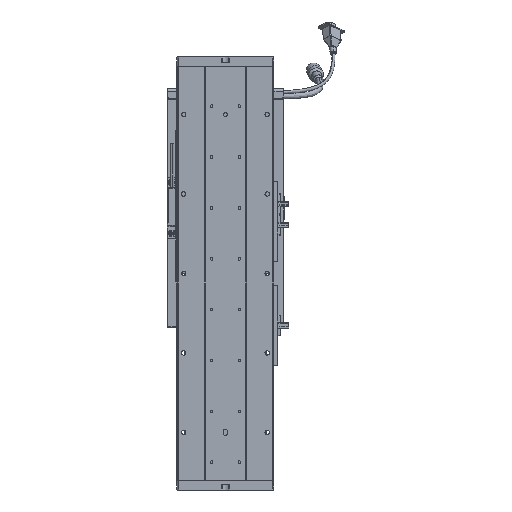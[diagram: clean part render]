
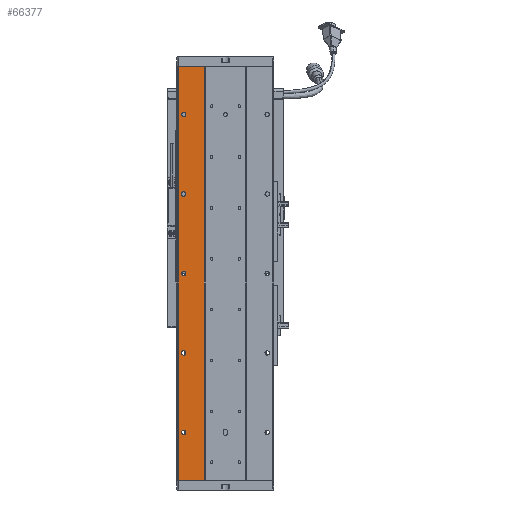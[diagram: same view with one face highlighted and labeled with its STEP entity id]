
A CAD part, front view. The second image highlights one B-rep face of the part: STEP entity #66377.
In plain terms, the highlighted planar face has unit normal (0, -1, 0).
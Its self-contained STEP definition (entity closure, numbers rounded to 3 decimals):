
#371 = AXIS2_PLACEMENT_3D ( 'NONE', #21642, #43368, #32875 ) ;
#647 = CIRCLE ( 'NONE', #56415, 2.75 ) ;
#777 = VECTOR ( 'NONE', #56408, 1000. ) ;
#1870 = CIRCLE ( 'NONE', #28255, 2.75 ) ;
#2249 = CARTESIAN_POINT ( 'NONE',  ( 95.718, 76.768, 521. ) ) ;
#2400 = EDGE_CURVE ( 'NONE', #39315, #15505, #65964, .T. ) ;
#2832 = DIRECTION ( 'NONE',  ( 0., 0., 1. ) ) ;
#3201 = EDGE_CURVE ( 'NONE', #43932, #38945, #65885, .T. ) ;
#3516 = FACE_BOUND ( 'NONE', #54152, .T. ) ;
#4074 = VECTOR ( 'NONE', #72143, 1000. ) ;
#4350 = FACE_BOUND ( 'NONE', #26008, .T. ) ;
#4689 = ORIENTED_EDGE ( 'NONE', *, *, #44095, .T. ) ;
#6122 = AXIS2_PLACEMENT_3D ( 'NONE', #52576, #69620, #36219 ) ;
#6358 = AXIS2_PLACEMENT_3D ( 'NONE', #41180, #18446, #30184 ) ;
#7632 = EDGE_CURVE ( 'NONE', #36573, #13439, #26385, .T. ) ;
#7899 = CARTESIAN_POINT ( 'NONE',  ( 84.971, 76.768, 0. ) ) ;
#9482 = ORIENTED_EDGE ( 'NONE', *, *, #22255, .F. ) ;
#9581 = ORIENTED_EDGE ( 'NONE', *, *, #2400, .F. ) ;
#10891 = VERTEX_POINT ( 'NONE', #37682 ) ;
#11020 = DIRECTION ( 'NONE',  ( 0., 1., 0. ) ) ;
#11096 = DIRECTION ( 'NONE',  ( 0., 0., 1. ) ) ;
#13439 = VERTEX_POINT ( 'NONE', #15595 ) ;
#13720 = EDGE_CURVE ( 'NONE', #68874, #31255, #37790, .T. ) ;
#13742 = PLANE ( 'NONE',  #53101 ) ;
#14238 = DIRECTION ( 'NONE',  ( 0., 0., 1. ) ) ;
#15305 = ORIENTED_EDGE ( 'NONE', *, *, #40513, .T. ) ;
#15505 = VERTEX_POINT ( 'NONE', #28987 ) ;
#15595 = CARTESIAN_POINT ( 'NONE',  ( 102.625, 76.768, 463.25 ) ) ;
#15846 = CARTESIAN_POINT ( 'NONE',  ( 0., 76.768, 0. ) ) ;
#15941 = VERTEX_POINT ( 'NONE', #2249 ) ;
#17335 = ORIENTED_EDGE ( 'NONE', *, *, #23644, .T. ) ;
#17418 = FACE_OUTER_BOUND ( 'NONE', #34646, .T. ) ;
#18420 = EDGE_LOOP ( 'NONE', ( #15305, #67484 ) ) ;
#18446 = DIRECTION ( 'NONE',  ( 0., 1., 0. ) ) ;
#18810 = EDGE_CURVE ( 'NONE', #53675, #10891, #53916, .T. ) ;
#20332 = EDGE_CURVE ( 'NONE', #49892, #23582, #52950, .T. ) ;
#20891 = EDGE_LOOP ( 'NONE', ( #64458, #49096 ) ) ;
#20926 = EDGE_CURVE ( 'NONE', #10891, #53675, #52033, .T. ) ;
#21642 = CARTESIAN_POINT ( 'NONE',  ( 102.625, 76.768, 460.5 ) ) ;
#22255 = EDGE_CURVE ( 'NONE', #15505, #15941, #24760, .T. ) ;
#23255 = ORIENTED_EDGE ( 'NONE', *, *, #18810, .T. ) ;
#23582 = VERTEX_POINT ( 'NONE', #43404 ) ;
#23644 = EDGE_CURVE ( 'NONE', #23582, #49892, #1870, .T. ) ;
#23915 = CARTESIAN_POINT ( 'NONE',  ( 102.625, 76.768, 63.25 ) ) ;
#24727 = DIRECTION ( 'NONE',  ( 0., 1., 0. ) ) ;
#24760 = LINE ( 'NONE', #70993, #62224 ) ;
#26008 = EDGE_LOOP ( 'NONE', ( #46991, #17335 ) ) ;
#26385 = CIRCLE ( 'NONE', #371, 2.75 ) ;
#28255 = AXIS2_PLACEMENT_3D ( 'NONE', #67241, #50193, #44594 ) ;
#28987 = CARTESIAN_POINT ( 'NONE',  ( 95.718, 76.768, 0. ) ) ;
#30184 = DIRECTION ( 'NONE',  ( 0., 0., 1. ) ) ;
#30539 = FACE_BOUND ( 'NONE', #20891, .T. ) ;
#30635 = CARTESIAN_POINT ( 'NONE',  ( 102.625, 76.768, 257.75 ) ) ;
#31144 = DIRECTION ( 'NONE',  ( 0., 1., 0. ) ) ;
#31247 = DIRECTION ( 'NONE',  ( 0., 1., 0. ) ) ;
#31255 = VERTEX_POINT ( 'NONE', #68599 ) ;
#31380 = LINE ( 'NONE', #40350, #777 ) ;
#31395 = CARTESIAN_POINT ( 'NONE',  ( 102.625, 76.768, 60.5 ) ) ;
#31608 = CARTESIAN_POINT ( 'NONE',  ( 128.625, 76.768, 521. ) ) ;
#31609 = CIRCLE ( 'NONE', #6122, 2.75 ) ;
#31902 = AXIS2_PLACEMENT_3D ( 'NONE', #47794, #31247, #36103 ) ;
#32875 = DIRECTION ( 'NONE',  ( 0., 0., 1. ) ) ;
#33203 = FACE_BOUND ( 'NONE', #18420, .T. ) ;
#34646 = EDGE_LOOP ( 'NONE', ( #9581, #48690, #66916, #9482 ) ) ;
#35329 = CARTESIAN_POINT ( 'NONE',  ( 128.625, 76.768, 521. ) ) ;
#35694 = LINE ( 'NONE', #35329, #65320 ) ;
#36103 = DIRECTION ( 'NONE',  ( 0., 0., 1. ) ) ;
#36219 = DIRECTION ( 'NONE',  ( 0., 0., 1. ) ) ;
#36573 = VERTEX_POINT ( 'NONE', #51702 ) ;
#37611 = DIRECTION ( 'NONE',  ( 0., 0., 1. ) ) ;
#37682 = CARTESIAN_POINT ( 'NONE',  ( 102.625, 76.768, 157.75 ) ) ;
#37790 = CIRCLE ( 'NONE', #6358, 2.75 ) ;
#37870 = ORIENTED_EDGE ( 'NONE', *, *, #13720, .T. ) ;
#38779 = EDGE_LOOP ( 'NONE', ( #4689, #37870 ) ) ;
#38945 = VERTEX_POINT ( 'NONE', #66311 ) ;
#39287 = FACE_BOUND ( 'NONE', #38779, .T. ) ;
#39309 = EDGE_CURVE ( 'NONE', #49157, #39315, #35694, .T. ) ;
#39315 = VERTEX_POINT ( 'NONE', #51665 ) ;
#39560 = CARTESIAN_POINT ( 'NONE',  ( 102.625, 76.768, 360.5 ) ) ;
#40350 = CARTESIAN_POINT ( 'NONE',  ( 84.971, 76.768, 521. ) ) ;
#40513 = EDGE_CURVE ( 'NONE', #38945, #43932, #647, .T. ) ;
#41180 = CARTESIAN_POINT ( 'NONE',  ( 102.625, 76.768, 260.5 ) ) ;
#41838 = DIRECTION ( 'NONE',  ( 0., 1., 0. ) ) ;
#41856 = AXIS2_PLACEMENT_3D ( 'NONE', #53506, #41838, #14238 ) ;
#42993 = DIRECTION ( 'NONE',  ( 0., 0., 1. ) ) ;
#43368 = DIRECTION ( 'NONE',  ( 0., 1., 0. ) ) ;
#43404 = CARTESIAN_POINT ( 'NONE',  ( 102.625, 76.768, 57.75 ) ) ;
#43932 = VERTEX_POINT ( 'NONE', #55295 ) ;
#44095 = EDGE_CURVE ( 'NONE', #31255, #68874, #31609, .T. ) ;
#44413 = ORIENTED_EDGE ( 'NONE', *, *, #20926, .T. ) ;
#44594 = DIRECTION ( 'NONE',  ( 0., 0., 1. ) ) ;
#44909 = AXIS2_PLACEMENT_3D ( 'NONE', #31395, #31144, #57422 ) ;
#45151 = DIRECTION ( 'NONE',  ( 0., 0., 1. ) ) ;
#45958 = EDGE_CURVE ( 'NONE', #49157, #15941, #31380, .T. ) ;
#46991 = ORIENTED_EDGE ( 'NONE', *, *, #20332, .T. ) ;
#47794 = CARTESIAN_POINT ( 'NONE',  ( 102.625, 76.768, 160.5 ) ) ;
#48370 = AXIS2_PLACEMENT_3D ( 'NONE', #50609, #72043, #11096 ) ;
#48690 = ORIENTED_EDGE ( 'NONE', *, *, #39309, .F. ) ;
#49096 = ORIENTED_EDGE ( 'NONE', *, *, #7632, .T. ) ;
#49157 = VERTEX_POINT ( 'NONE', #31608 ) ;
#49892 = VERTEX_POINT ( 'NONE', #23915 ) ;
#50193 = DIRECTION ( 'NONE',  ( 0., 1., 0. ) ) ;
#50609 = CARTESIAN_POINT ( 'NONE',  ( 102.625, 76.768, 460.5 ) ) ;
#51665 = CARTESIAN_POINT ( 'NONE',  ( 128.625, 76.768, 0. ) ) ;
#51702 = CARTESIAN_POINT ( 'NONE',  ( 102.625, 76.768, 457.75 ) ) ;
#52033 = CIRCLE ( 'NONE', #31902, 2.75 ) ;
#52576 = CARTESIAN_POINT ( 'NONE',  ( 102.625, 76.768, 260.5 ) ) ;
#52950 = CIRCLE ( 'NONE', #44909, 2.75 ) ;
#53101 = AXIS2_PLACEMENT_3D ( 'NONE', #7899, #24727, #42993 ) ;
#53506 = CARTESIAN_POINT ( 'NONE',  ( 102.625, 76.768, 360.5 ) ) ;
#53675 = VERTEX_POINT ( 'NONE', #58035 ) ;
#53916 = CIRCLE ( 'NONE', #55173, 2.75 ) ;
#54152 = EDGE_LOOP ( 'NONE', ( #23255, #44413 ) ) ;
#55173 = AXIS2_PLACEMENT_3D ( 'NONE', #69627, #57934, #2832 ) ;
#55295 = CARTESIAN_POINT ( 'NONE',  ( 102.625, 76.768, 357.75 ) ) ;
#56408 = DIRECTION ( 'NONE',  ( -1., 0., 0. ) ) ;
#56415 = AXIS2_PLACEMENT_3D ( 'NONE', #39560, #11020, #45151 ) ;
#57422 = DIRECTION ( 'NONE',  ( 0., 0., 1. ) ) ;
#57934 = DIRECTION ( 'NONE',  ( 0., 1., 0. ) ) ;
#58035 = CARTESIAN_POINT ( 'NONE',  ( 102.625, 76.768, 163.25 ) ) ;
#62224 = VECTOR ( 'NONE', #37611, 1000. ) ;
#62634 = DIRECTION ( 'NONE',  ( 0., 0., -1. ) ) ;
#64458 = ORIENTED_EDGE ( 'NONE', *, *, #66082, .T. ) ;
#65320 = VECTOR ( 'NONE', #62634, 1000. ) ;
#65885 = CIRCLE ( 'NONE', #41856, 2.75 ) ;
#65964 = LINE ( 'NONE', #15846, #4074 ) ;
#66082 = EDGE_CURVE ( 'NONE', #13439, #36573, #70658, .T. ) ;
#66311 = CARTESIAN_POINT ( 'NONE',  ( 102.625, 76.768, 363.25 ) ) ;
#66377 = ADVANCED_FACE ( 'NONE', ( #30539, #33203, #4350, #3516, #39287, #17418 ), #13742, .F. ) ;
#66916 = ORIENTED_EDGE ( 'NONE', *, *, #45958, .T. ) ;
#67241 = CARTESIAN_POINT ( 'NONE',  ( 102.625, 76.768, 60.5 ) ) ;
#67484 = ORIENTED_EDGE ( 'NONE', *, *, #3201, .T. ) ;
#68599 = CARTESIAN_POINT ( 'NONE',  ( 102.625, 76.768, 263.25 ) ) ;
#68874 = VERTEX_POINT ( 'NONE', #30635 ) ;
#69620 = DIRECTION ( 'NONE',  ( 0., 1., 0. ) ) ;
#69627 = CARTESIAN_POINT ( 'NONE',  ( 102.625, 76.768, 160.5 ) ) ;
#70658 = CIRCLE ( 'NONE', #48370, 2.75 ) ;
#70993 = CARTESIAN_POINT ( 'NONE',  ( 95.718, 76.768, 521. ) ) ;
#72043 = DIRECTION ( 'NONE',  ( 0., 1., 0. ) ) ;
#72143 = DIRECTION ( 'NONE',  ( -1., 0., 0. ) ) ;
